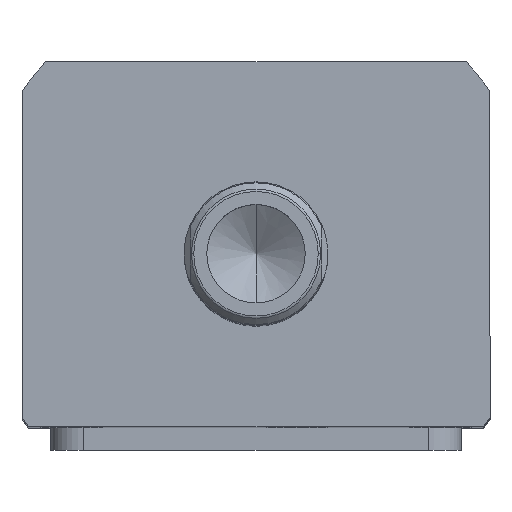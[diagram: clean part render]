
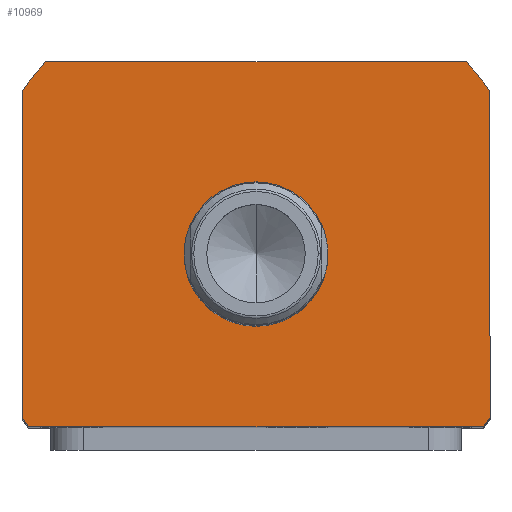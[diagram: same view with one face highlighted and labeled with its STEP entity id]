
A CAD part, top view. The second image highlights one B-rep face of the part: STEP entity #10969.
In plain terms, the highlighted planar face has unit normal (0, 0, 1) as drawn and (0, 0, -1) by its records, which use the part's own axes.
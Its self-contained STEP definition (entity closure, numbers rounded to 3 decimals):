
#162 = CARTESIAN_POINT ( 'NONE',  ( 0., -59.497, 0. ) ) ;
#1610 = DIRECTION ( 'NONE',  ( 1., 0., 0. ) ) ;
#2049 = CIRCLE ( 'NONE', #12947, 17.5 ) ;
#2052 = CARTESIAN_POINT ( 'NONE',  ( 57., -17.497, 0. ) ) ;
#2203 = EDGE_CURVE ( 'NONE', #18015, #14330, #7581, .T. ) ;
#2683 = AXIS2_PLACEMENT_3D ( 'NONE', #14867, #6204, #16304 ) ;
#3120 = CARTESIAN_POINT ( 'NONE',  ( 51.198, -106.497, 0. ) ) ;
#3124 = EDGE_CURVE ( 'NONE', #16808, #7874, #16382, .T. ) ;
#3251 = ORIENTED_EDGE ( 'NONE', *, *, #11575, .F. ) ;
#3325 = CARTESIAN_POINT ( 'NONE',  ( 0., -59.497, 0. ) ) ;
#3347 = CARTESIAN_POINT ( 'NONE',  ( 0., -59.497, 0. ) ) ;
#3363 = VERTEX_POINT ( 'NONE', #10679 ) ;
#3464 = EDGE_CURVE ( 'NONE', #7890, #4326, #9577, .T. ) ;
#3547 = CARTESIAN_POINT ( 'NONE',  ( 55.374, -17.497, 0. ) ) ;
#3601 = DIRECTION ( 'NONE',  ( 0., 1., 0. ) ) ;
#3759 = EDGE_CURVE ( 'NONE', #18778, #3363, #10027, .T. ) ;
#4326 = VERTEX_POINT ( 'NONE', #18196 ) ;
#4533 = ORIENTED_EDGE ( 'NONE', *, *, #2203, .F. ) ;
#4766 = DIRECTION ( 'NONE',  ( 1., 0., 0. ) ) ;
#4785 = DIRECTION ( 'NONE',  ( 1., 0., 0. ) ) ;
#4936 = VERTEX_POINT ( 'NONE', #3547 ) ;
#5263 = DIRECTION ( 'NONE',  ( 0., 0., 1. ) ) ;
#5337 = EDGE_CURVE ( 'NONE', #3363, #4936, #18670, .T. ) ;
#5543 = ORIENTED_EDGE ( 'NONE', *, *, #16638, .T. ) ;
#5644 = CARTESIAN_POINT ( 'NONE',  ( -57., -99.262, 0. ) ) ;
#6204 = DIRECTION ( 'NONE',  ( 0., 0., 1. ) ) ;
#6307 = CARTESIAN_POINT ( 'NONE',  ( -51.198, -106.497, 0. ) ) ;
#6683 = AXIS2_PLACEMENT_3D ( 'NONE', #162, #10328, #1610 ) ;
#6765 = ORIENTED_EDGE ( 'NONE', *, *, #10722, .F. ) ;
#6950 = CARTESIAN_POINT ( 'NONE',  ( 0., -59.497, 0. ) ) ;
#7112 = DIRECTION ( 'NONE',  ( 0., 0., 1. ) ) ;
#7493 = CARTESIAN_POINT ( 'NONE',  ( 17.5, -59.497, 0. ) ) ;
#7581 = CIRCLE ( 'NONE', #15871, 69.5 ) ;
#7685 = CARTESIAN_POINT ( 'NONE',  ( -57., -17.497, 0. ) ) ;
#7874 = VERTEX_POINT ( 'NONE', #3120 ) ;
#7890 = VERTEX_POINT ( 'NONE', #7493 ) ;
#8143 = CARTESIAN_POINT ( 'NONE',  ( 57., -99.262, 0. ) ) ;
#8214 = AXIS2_PLACEMENT_3D ( 'NONE', #9954, #7112, #17199 ) ;
#8307 = ORIENTED_EDGE ( 'NONE', *, *, #17585, .F. ) ;
#8385 = DIRECTION ( 'NONE',  ( 1., 0., 0. ) ) ;
#8390 = VERTEX_POINT ( 'NONE', #5644 ) ;
#8519 = CIRCLE ( 'NONE', #18673, 69.5 ) ;
#8630 = DIRECTION ( 'NONE',  ( 1., 0., 0. ) ) ;
#8878 = EDGE_CURVE ( 'NONE', #14330, #8390, #14101, .T. ) ;
#8991 = EDGE_LOOP ( 'NONE', ( #11080, #5543 ) ) ;
#9102 = CIRCLE ( 'NONE', #16470, 69.5 ) ;
#9577 = CIRCLE ( 'NONE', #6683, 17.5 ) ;
#9954 = CARTESIAN_POINT ( 'NONE',  ( 0., 0., 0. ) ) ;
#10027 = LINE ( 'NONE', #2052, #17244 ) ;
#10328 = DIRECTION ( 'NONE',  ( 0., 0., 1. ) ) ;
#10611 = CARTESIAN_POINT ( 'NONE',  ( -57., -17.497, 0. ) ) ;
#10679 = CARTESIAN_POINT ( 'NONE',  ( 57., -19.732, 0. ) ) ;
#10722 = EDGE_CURVE ( 'NONE', #8390, #16808, #8519, .T. ) ;
#10848 = ORIENTED_EDGE ( 'NONE', *, *, #8878, .F. ) ;
#10969 = ADVANCED_FACE ( 'NONE', ( #18221, #14397 ), #15754, .F. ) ;
#11080 = ORIENTED_EDGE ( 'NONE', *, *, #3464, .T. ) ;
#11575 = EDGE_CURVE ( 'NONE', #4936, #18015, #12586, .T. ) ;
#12100 = VECTOR ( 'NONE', #8630, 1000. ) ;
#12586 = LINE ( 'NONE', #7685, #15982 ) ;
#12947 = AXIS2_PLACEMENT_3D ( 'NONE', #3347, #13441, #4785 ) ;
#13039 = CARTESIAN_POINT ( 'NONE',  ( -55.374, -17.497, 0. ) ) ;
#13419 = DIRECTION ( 'NONE',  ( 0., 0., 1. ) ) ;
#13441 = DIRECTION ( 'NONE',  ( 0., 0., 1. ) ) ;
#13607 = DIRECTION ( 'NONE',  ( 0., -1., 0. ) ) ;
#13917 = CARTESIAN_POINT ( 'NONE',  ( -57., -19.732, 0. ) ) ;
#13918 = CARTESIAN_POINT ( 'NONE',  ( 0., -59.497, 0. ) ) ;
#14101 = LINE ( 'NONE', #10611, #17036 ) ;
#14330 = VERTEX_POINT ( 'NONE', #13917 ) ;
#14397 = FACE_OUTER_BOUND ( 'NONE', #17011, .T. ) ;
#14411 = ORIENTED_EDGE ( 'NONE', *, *, #3759, .F. ) ;
#14867 = CARTESIAN_POINT ( 'NONE',  ( 0., -59.497, 0. ) ) ;
#15373 = DIRECTION ( 'NONE',  ( 1., 0., 0. ) ) ;
#15754 = PLANE ( 'NONE',  #8214 ) ;
#15871 = AXIS2_PLACEMENT_3D ( 'NONE', #6950, #17032, #8385 ) ;
#15982 = VECTOR ( 'NONE', #16331, 1000. ) ;
#16304 = DIRECTION ( 'NONE',  ( 1., 0., 0. ) ) ;
#16331 = DIRECTION ( 'NONE',  ( -1., 0., 0. ) ) ;
#16382 = LINE ( 'NONE', #18739, #12100 ) ;
#16461 = ORIENTED_EDGE ( 'NONE', *, *, #3124, .F. ) ;
#16470 = AXIS2_PLACEMENT_3D ( 'NONE', #3325, #13419, #4766 ) ;
#16638 = EDGE_CURVE ( 'NONE', #4326, #7890, #2049, .T. ) ;
#16808 = VERTEX_POINT ( 'NONE', #6307 ) ;
#17011 = EDGE_LOOP ( 'NONE', ( #17335, #14411, #8307, #16461, #6765, #10848, #4533, #3251 ) ) ;
#17032 = DIRECTION ( 'NONE',  ( 0., 0., 1. ) ) ;
#17036 = VECTOR ( 'NONE', #13607, 1000. ) ;
#17199 = DIRECTION ( 'NONE',  ( 1., 0., 0. ) ) ;
#17244 = VECTOR ( 'NONE', #3601, 1000. ) ;
#17335 = ORIENTED_EDGE ( 'NONE', *, *, #5337, .F. ) ;
#17585 = EDGE_CURVE ( 'NONE', #7874, #18778, #9102, .T. ) ;
#18015 = VERTEX_POINT ( 'NONE', #13039 ) ;
#18196 = CARTESIAN_POINT ( 'NONE',  ( -17.5, -59.497, 0. ) ) ;
#18221 = FACE_BOUND ( 'NONE', #8991, .T. ) ;
#18670 = CIRCLE ( 'NONE', #2683, 69.5 ) ;
#18673 = AXIS2_PLACEMENT_3D ( 'NONE', #13918, #5263, #15373 ) ;
#18739 = CARTESIAN_POINT ( 'NONE',  ( -57., -106.497, 0. ) ) ;
#18778 = VERTEX_POINT ( 'NONE', #8143 ) ;
